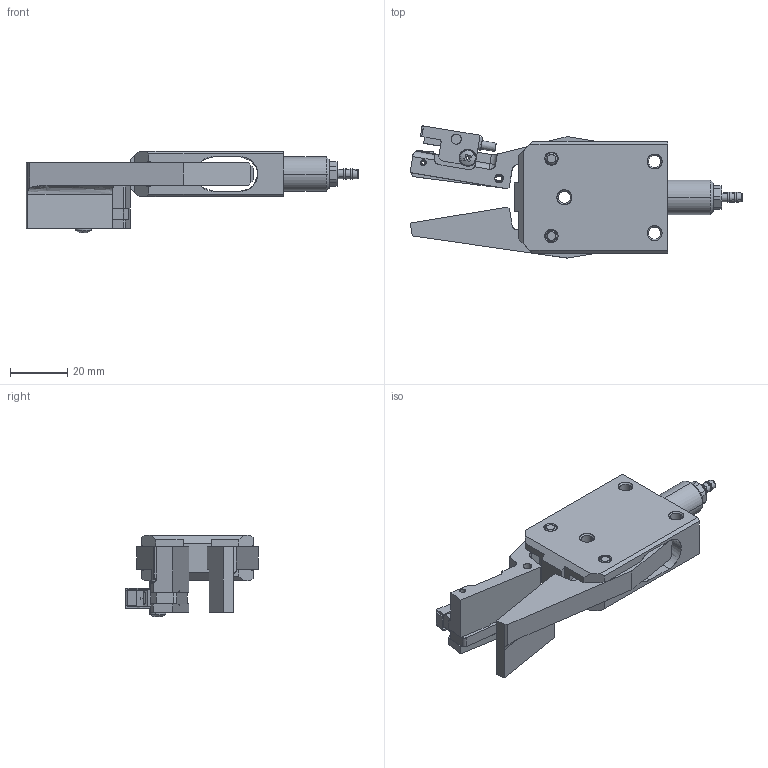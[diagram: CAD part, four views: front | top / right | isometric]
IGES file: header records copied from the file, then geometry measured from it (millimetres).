
Start section: SolidWorks IGES file using analytic representation for surfaces
Global section: file name: C:\Users\star054c\Desktop\023161\023161.IGS; native system: SolidWorks 2013; preprocessor: SolidWorks 2013; author: STAR054C; date: 130924.211219; units: millimetre
Bounding box: 115.87 x 46.18 x 28.55 mm (x, y, z)
Surface area: 20352 mm2 (no closed solid volume)
Topology: 0 solids, 0 shells, 338 faces, 4250 edges, 4249 vertices
Faces by surface type: bspline 171, revolution 167
